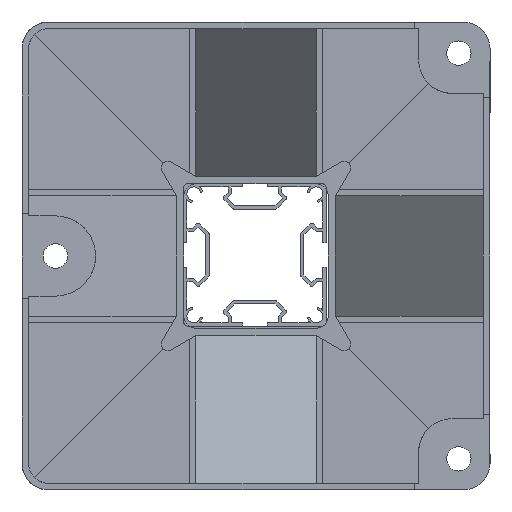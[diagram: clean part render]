
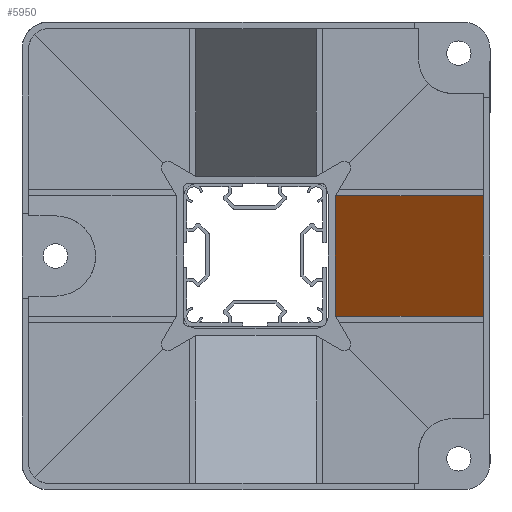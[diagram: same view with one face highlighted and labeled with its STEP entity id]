
A CAD part, front view. The second image highlights one B-rep face of the part: STEP entity #5950.
In plain terms, the highlighted planar face has unit normal (-0.697, -0.718, 0).
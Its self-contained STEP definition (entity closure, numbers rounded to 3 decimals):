
#4207 = VERTEX_POINT ( 'NONE', #9429 ) ;
#4236 = VERTEX_POINT ( 'NONE', #9569 ) ;
#4237 = EDGE_CURVE ( 'NONE', #4236, #4243, #9560, .T. ) ;
#4243 = VERTEX_POINT ( 'NONE', #9577 ) ;
#4330 = VERTEX_POINT ( 'NONE', #9804 ) ;
#4619 = EDGE_CURVE ( 'NONE', #4207, #4330, #10042, .T. ) ;
#5470 = EDGE_CURVE ( 'NONE', #5594, #4243, #11545, .T. ) ;
#5496 = EDGE_LOOP ( 'NONE', ( #5954, #5916, #5952, #5953, #5951, #5904 ) ) ;
#5591 = VERTEX_POINT ( 'NONE', #11898 ) ;
#5594 = VERTEX_POINT ( 'NONE', #11892 ) ;
#5595 = EDGE_CURVE ( 'NONE', #5594, #5591, #11891, .T. ) ;
#5616 = EDGE_CURVE ( 'NONE', #4330, #5591, #11859, .T. ) ;
#5628 = EDGE_CURVE ( 'NONE', #4236, #4207, #11827, .T. ) ;
#5904 = ORIENTED_EDGE ( 'NONE', *, *, #5470, .F. ) ;
#5916 = ORIENTED_EDGE ( 'NONE', *, *, #5616, .F. ) ;
#5950 = ADVANCED_FACE ( 'NONE', ( #12261 ), #12257, .T. ) ;
#5951 = ORIENTED_EDGE ( 'NONE', *, *, #4237, .T. ) ;
#5952 = ORIENTED_EDGE ( 'NONE', *, *, #4619, .F. ) ;
#5953 = ORIENTED_EDGE ( 'NONE', *, *, #5628, .F. ) ;
#5954 = ORIENTED_EDGE ( 'NONE', *, *, #5595, .T. ) ;
#9429 = CARTESIAN_POINT ( 'NONE',  ( 162.782, 12.731, 89.635 ) ) ;
#9555 = CARTESIAN_POINT ( 'NONE',  ( 96.282, 77.275, 89.135 ) ) ;
#9556 = CARTESIAN_POINT ( 'NONE',  ( 96.282, 77.275, 89.302 ) ) ;
#9557 = CARTESIAN_POINT ( 'NONE',  ( 96.278, 77.28, 89.469 ) ) ;
#9558 = CARTESIAN_POINT ( 'NONE',  ( 96.268, 77.289, 89.635 ) ) ;
#9560 =( BOUNDED_CURVE ( )  B_SPLINE_CURVE ( 3, ( #9558, #9557, #9556, #9555 ),
 .UNSPECIFIED., .F., .F. ) 
 B_SPLINE_CURVE_WITH_KNOTS ( ( 4, 4 ),
 ( 6.228, 6.283 ),
 .UNSPECIFIED. ) 
 CURVE ( )  GEOMETRIC_REPRESENTATION_ITEM ( )  RATIONAL_B_SPLINE_CURVE ( ( 1., 1., 1., 1. ) ) 
 REPRESENTATION_ITEM ( '' )  );
#9569 = CARTESIAN_POINT ( 'NONE',  ( 96.268, 77.289, 89.635 ) ) ;
#9577 = CARTESIAN_POINT ( 'NONE',  ( 96.282, 77.275, 89.135 ) ) ;
#9804 = CARTESIAN_POINT ( 'NONE',  ( 162.782, 12.731, 35.635 ) ) ;
#10031 = DIRECTION ( 'NONE',  ( 0., 0., -1. ) ) ;
#10032 = VECTOR ( 'NONE', #10031, 1000. ) ;
#10033 = CARTESIAN_POINT ( 'NONE',  ( 162.782, 12.731, 178.635 ) ) ;
#10042 = LINE ( 'NONE', #10033, #10032 ) ;
#11541 = DIRECTION ( 'NONE',  ( 0., 0., 1. ) ) ;
#11542 = CARTESIAN_POINT ( 'NONE',  ( 96.282, 77.275, 178.635 ) ) ;
#11545 = LINE ( 'NONE', #11542, #11726 ) ;
#11726 = VECTOR ( 'NONE', #11541, 1000. ) ;
#11822 = DIRECTION ( 'NONE',  ( 0.718, -0.696, 0. ) ) ;
#11823 = VECTOR ( 'NONE', #11822, 1000. ) ;
#11824 = CARTESIAN_POINT ( 'NONE',  ( 95.693, 77.847, 89.635 ) ) ;
#11827 = LINE ( 'NONE', #11824, #11823 ) ;
#11845 = DIRECTION ( 'NONE',  ( -0.718, 0.696, 0. ) ) ;
#11846 = VECTOR ( 'NONE', #11845, 1000. ) ;
#11858 = CARTESIAN_POINT ( 'NONE',  ( 95.693, 77.847, 35.635 ) ) ;
#11859 = LINE ( 'NONE', #11858, #11846 ) ;
#11887 = CARTESIAN_POINT ( 'NONE',  ( 96.268, 77.289, 35.635 ) ) ;
#11888 = CARTESIAN_POINT ( 'NONE',  ( 96.278, 77.28, 35.802 ) ) ;
#11889 = CARTESIAN_POINT ( 'NONE',  ( 96.282, 77.275, 35.968 ) ) ;
#11890 = CARTESIAN_POINT ( 'NONE',  ( 96.282, 77.275, 36.135 ) ) ;
#11891 =( BOUNDED_CURVE ( )  B_SPLINE_CURVE ( 3, ( #11890, #11889, #11888, #11887 ),
 .UNSPECIFIED., .F., .T. ) 
 B_SPLINE_CURVE_WITH_KNOTS ( ( 4, 4 ),
 ( 0., 0.056 ),
 .UNSPECIFIED. ) 
 CURVE ( )  GEOMETRIC_REPRESENTATION_ITEM ( )  RATIONAL_B_SPLINE_CURVE ( ( 1., 1., 1., 1. ) ) 
 REPRESENTATION_ITEM ( '' )  );
#11892 = CARTESIAN_POINT ( 'NONE',  ( 96.282, 77.275, 36.135 ) ) ;
#11898 = CARTESIAN_POINT ( 'NONE',  ( 96.268, 77.289, 35.635 ) ) ;
#12256 = AXIS2_PLACEMENT_3D ( 'NONE', #12354, #12353, #12400 ) ;
#12257 = PLANE ( 'NONE',  #12256 ) ;
#12261 = FACE_OUTER_BOUND ( 'NONE', #5496, .T. ) ;
#12353 = DIRECTION ( 'NONE',  ( -0.696, -0.718, 0. ) ) ;
#12354 = CARTESIAN_POINT ( 'NONE',  ( 95.693, 77.847, 178.635 ) ) ;
#12400 = DIRECTION ( 'NONE',  ( 0.718, -0.696, 0. ) ) ;
